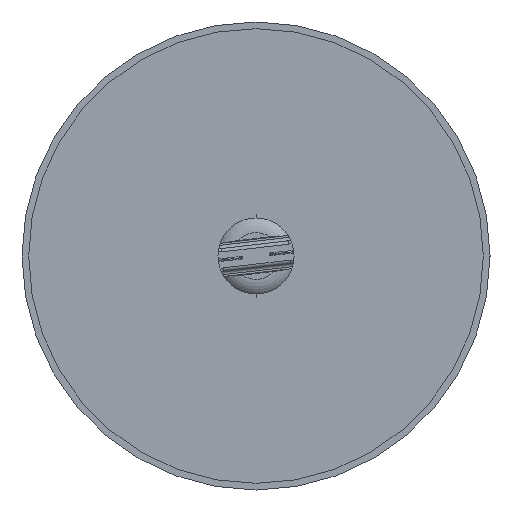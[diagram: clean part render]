
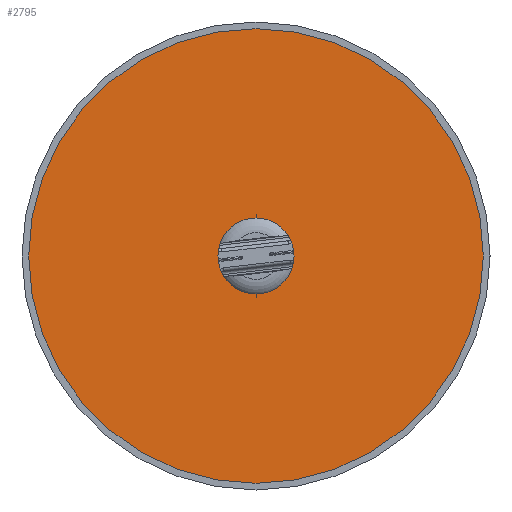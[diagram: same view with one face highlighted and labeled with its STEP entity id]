
A CAD part, front view. The second image highlights one B-rep face of the part: STEP entity #2795.
In plain terms, the highlighted planar face has unit normal (0, -1, 0).
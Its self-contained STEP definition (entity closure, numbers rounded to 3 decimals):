
#79 = AXIS2_PLACEMENT_3D ( 'NONE', #2044, #3023, #5181 ) ;
#313 = EDGE_CURVE ( 'NONE', #369, #3035, #814, .T. ) ;
#369 = VERTEX_POINT ( 'NONE', #2689 ) ;
#529 = EDGE_CURVE ( 'NONE', #3094, #5653, #1559, .T. ) ;
#718 = EDGE_CURVE ( 'NONE', #3035, #369, #3174, .T. ) ;
#814 = CIRCLE ( 'NONE', #4453, 5.693 ) ;
#941 = CIRCLE ( 'NONE', #6398, 34. ) ;
#1187 = DIRECTION ( 'NONE',  ( 0., 0., -1. ) ) ;
#1480 = ORIENTED_EDGE ( 'NONE', *, *, #313, .F. ) ;
#1559 = CIRCLE ( 'NONE', #3283, 34. ) ;
#2011 = DIRECTION ( 'NONE',  ( 0., -1., 0. ) ) ;
#2044 = CARTESIAN_POINT ( 'NONE',  ( 0., 21., 0. ) ) ;
#2233 = ORIENTED_EDGE ( 'NONE', *, *, #529, .T. ) ;
#2449 = CARTESIAN_POINT ( 'NONE',  ( 0., 21., 0. ) ) ;
#2623 = EDGE_LOOP ( 'NONE', ( #2233, #3729 ) ) ;
#2689 = CARTESIAN_POINT ( 'NONE',  ( 0., 21., 5.693 ) ) ;
#2795 = ADVANCED_FACE ( 'NONE', ( #4097, #6143 ), #3018, .T. ) ;
#3018 = PLANE ( 'NONE',  #3489 ) ;
#3023 = DIRECTION ( 'NONE',  ( 0., -1., 0. ) ) ;
#3035 = VERTEX_POINT ( 'NONE', #4423 ) ;
#3094 = VERTEX_POINT ( 'NONE', #4496 ) ;
#3174 = CIRCLE ( 'NONE', #79, 5.693 ) ;
#3225 = CARTESIAN_POINT ( 'NONE',  ( 0., 21., 34. ) ) ;
#3283 = AXIS2_PLACEMENT_3D ( 'NONE', #2449, #3933, #5943 ) ;
#3392 = CARTESIAN_POINT ( 'NONE',  ( 0., 21., 0. ) ) ;
#3489 = AXIS2_PLACEMENT_3D ( 'NONE', #5074, #2011, #6115 ) ;
#3729 = ORIENTED_EDGE ( 'NONE', *, *, #5385, .T. ) ;
#3933 = DIRECTION ( 'NONE',  ( 0., -1., 0. ) ) ;
#4097 = FACE_OUTER_BOUND ( 'NONE', #2623, .T. ) ;
#4423 = CARTESIAN_POINT ( 'NONE',  ( 0., 21., -5.693 ) ) ;
#4453 = AXIS2_PLACEMENT_3D ( 'NONE', #6316, #5915, #1187 ) ;
#4496 = CARTESIAN_POINT ( 'NONE',  ( 0., 21., -34. ) ) ;
#5074 = CARTESIAN_POINT ( 'NONE',  ( -35., 21., 0. ) ) ;
#5085 = EDGE_LOOP ( 'NONE', ( #5441, #1480 ) ) ;
#5181 = DIRECTION ( 'NONE',  ( 0., 0., -1. ) ) ;
#5385 = EDGE_CURVE ( 'NONE', #5653, #3094, #941, .T. ) ;
#5441 = ORIENTED_EDGE ( 'NONE', *, *, #718, .F. ) ;
#5653 = VERTEX_POINT ( 'NONE', #3225 ) ;
#5909 = DIRECTION ( 'NONE',  ( 0., -1., 0. ) ) ;
#5915 = DIRECTION ( 'NONE',  ( 0., -1., 0. ) ) ;
#5943 = DIRECTION ( 'NONE',  ( 0., 0., -1. ) ) ;
#6115 = DIRECTION ( 'NONE',  ( 0., 0., -1. ) ) ;
#6143 = FACE_BOUND ( 'NONE', #5085, .T. ) ;
#6316 = CARTESIAN_POINT ( 'NONE',  ( 0., 21., 0. ) ) ;
#6398 = AXIS2_PLACEMENT_3D ( 'NONE', #3392, #5909, #6470 ) ;
#6470 = DIRECTION ( 'NONE',  ( 0., 0., -1. ) ) ;
